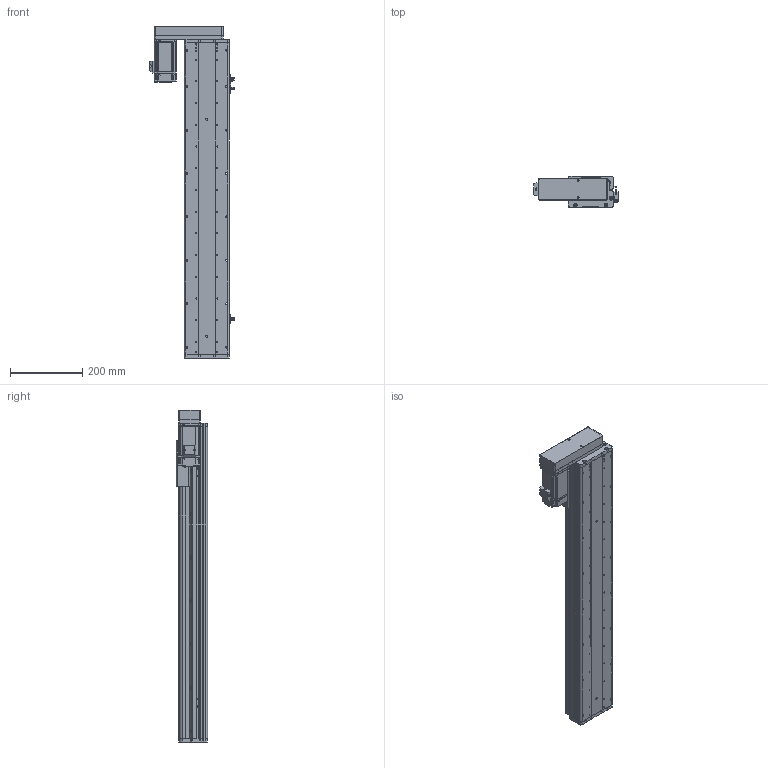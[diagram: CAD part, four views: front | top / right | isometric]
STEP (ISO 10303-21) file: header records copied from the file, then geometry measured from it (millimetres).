
FILE_DESCRIPTION (( 'STEP AP214' ), '1' );
FILE_NAME ('KSD125S-S650-ML-CM.STEP', '2017-10-21T08:36:30', ( '微软用户' ), ( '微软中国' ), 'SwSTEP 2.0', 'SolidWorks 2014', '' );
FILE_SCHEMA (( 'AUTOMOTIVE_DESIGN' ));
Length unit declared in the file: millimetre
Products named in the file (16): HTPA30S3M150_A_H6_a佪裝蚚; HTPA30S3M150_A_H6_a萇儂蚚; 125宽马达安装板连板左右折丝杆; 125悵誘欶酘衵殏; KSD125S-650俴最佪裝滅鳥裔; KSD125S-650俴最佪裝菁啣; MHMD042G1CA_2_03; 拸萇儂釱滅袉菜; 拸萇儂釱滅袉菜-1; U倰嫖萇假蚾璃; ヶ傷啣-125遵耀郪; KSD125-賑雄釱1; 125-帣傷啣1; KSD125S-S650-ML-CM; 覜茼え68遵圉猾敕; U倰嫖萇EEㄜSX672
Assembly tree (19 placements, depth 2):
  KSD125S-S650-ML-CM
    125-帣傷啣1
    KSD125-賑雄釱1
    ヶ傷啣-125遵耀郪
    U倰嫖萇假蚾璃  x3
    拸萇儂釱滅袉菜-1
    拸萇儂釱滅袉菜
    MHMD042G1CA_2_03
    KSD125S-650俴最佪裝菁啣
    KSD125S-650俴最佪裝滅鳥裔
    125悵誘欶酘衵殏
    125宽马达安装板连板左右折丝杆
    HTPA30S3M150_A_H6_a萇儂蚚
    HTPA30S3M150_A_H6_a佪裝蚚
    U倰嫖萇EEㄜSX672  x3
    覜茼え68遵圉猾敕
Bounding box: 234.2 x 86 x 917.5 mm (x, y, z)
Volume: 3040816.6 mm3; surface area: 1044401.4 mm2
Topology: 18 solids, 21 shells, 2215 faces, 6423 edges, 4237 vertices
Faces by surface type: cylinder 1390, plane 684, cone 119, bspline 22
Entity records: 78161 total; most frequent: CARTESIAN_POINT 15889, DIRECTION 12201, ORIENTED_EDGE 11354, EDGE_CURVE 5755, AXIS2_PLACEMENT_3D 4719, VERTEX_POINT 3829, LINE 2763, VECTOR 2763
